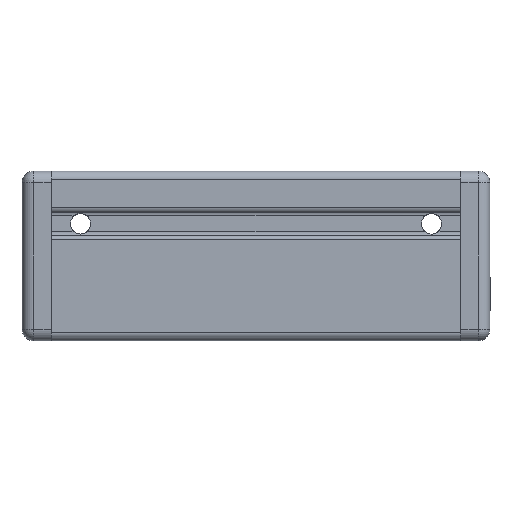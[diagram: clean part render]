
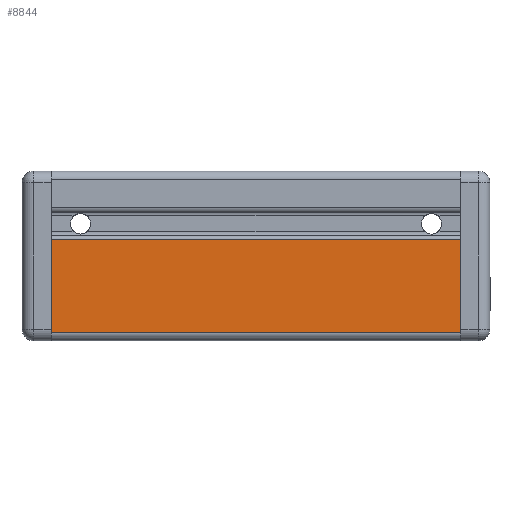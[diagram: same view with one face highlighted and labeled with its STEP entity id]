
A CAD part, front view. The second image highlights one B-rep face of the part: STEP entity #8844.
In plain terms, the highlighted planar face has unit normal (0, -1, 0) as drawn and (-1, 0, 0) by its records, which use the part's own axes.
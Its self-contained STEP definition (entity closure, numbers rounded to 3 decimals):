
#508 = CARTESIAN_POINT ( 'NONE',  ( 150.06, -0.055, 140. ) ) ;
#1008 = FACE_OUTER_BOUND ( 'NONE', #2380, .T. ) ;
#1164 = LINE ( 'NONE', #12908, #1251 ) ;
#1251 = VECTOR ( 'NONE', #6859, 1000. ) ;
#1567 = AXIS2_PLACEMENT_3D ( 'NONE', #3727, #4809, #12006 ) ;
#2274 = VERTEX_POINT ( 'NONE', #12557 ) ;
#2380 = EDGE_LOOP ( 'NONE', ( #6390, #9369, #6544, #11746 ) ) ;
#3695 = VECTOR ( 'NONE', #11763, 1000. ) ;
#3727 = CARTESIAN_POINT ( 'NONE',  ( 150.06, -33.13, -10. ) ) ;
#3932 = CARTESIAN_POINT ( 'NONE',  ( 150.06, -0.055, 100. ) ) ;
#4423 = CARTESIAN_POINT ( 'NONE',  ( 150.06, -31.555, 0. ) ) ;
#4539 = CARTESIAN_POINT ( 'NONE',  ( 150.06, -31.555, -10. ) ) ;
#4792 = CARTESIAN_POINT ( 'NONE',  ( 150.06, -33.13, 140. ) ) ;
#4809 = DIRECTION ( 'NONE',  ( -1., 0., 0. ) ) ;
#6258 = VERTEX_POINT ( 'NONE', #4423 ) ;
#6390 = ORIENTED_EDGE ( 'NONE', *, *, #13219, .T. ) ;
#6536 = LINE ( 'NONE', #4539, #3695 ) ;
#6544 = ORIENTED_EDGE ( 'NONE', *, *, #12808, .F. ) ;
#6859 = DIRECTION ( 'NONE',  ( 0., 1., 0. ) ) ;
#7770 = VECTOR ( 'NONE', #7968, 1000. ) ;
#7968 = DIRECTION ( 'NONE',  ( 0., 1., 0. ) ) ;
#8552 = VERTEX_POINT ( 'NONE', #9630 ) ;
#8778 = EDGE_CURVE ( 'NONE', #6258, #8552, #1164, .T. ) ;
#8844 = ADVANCED_FACE ( 'NONE', ( #1008 ), #10030, .T. ) ;
#8861 = VERTEX_POINT ( 'NONE', #508 ) ;
#9369 = ORIENTED_EDGE ( 'NONE', *, *, #10776, .T. ) ;
#9630 = CARTESIAN_POINT ( 'NONE',  ( 150.06, -0.055, 0. ) ) ;
#10030 = PLANE ( 'NONE',  #1567 ) ;
#10776 = EDGE_CURVE ( 'NONE', #2274, #8861, #10814, .T. ) ;
#10814 = LINE ( 'NONE', #4792, #7770 ) ;
#11194 = DIRECTION ( 'NONE',  ( 0., 0., 1. ) ) ;
#11746 = ORIENTED_EDGE ( 'NONE', *, *, #8778, .F. ) ;
#11763 = DIRECTION ( 'NONE',  ( 0., 0., 1. ) ) ;
#12006 = DIRECTION ( 'NONE',  ( 0., 0., 1. ) ) ;
#12557 = CARTESIAN_POINT ( 'NONE',  ( 150.06, -31.555, 140. ) ) ;
#12808 = EDGE_CURVE ( 'NONE', #8552, #8861, #13336, .T. ) ;
#12908 = CARTESIAN_POINT ( 'NONE',  ( 150.06, -57.955, 0. ) ) ;
#13037 = VECTOR ( 'NONE', #11194, 1000. ) ;
#13219 = EDGE_CURVE ( 'NONE', #6258, #2274, #6536, .T. ) ;
#13336 = LINE ( 'NONE', #3932, #13037 ) ;
